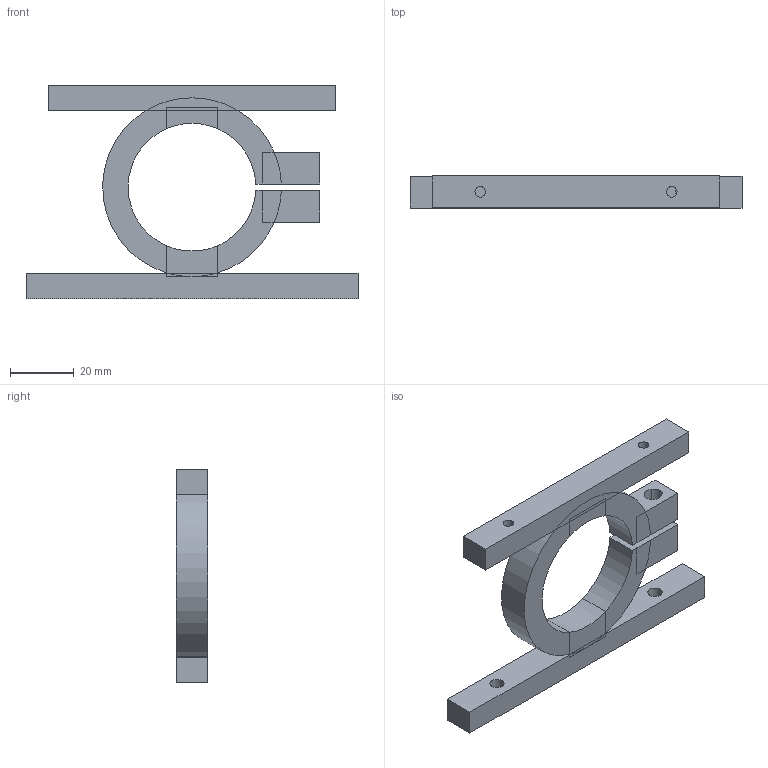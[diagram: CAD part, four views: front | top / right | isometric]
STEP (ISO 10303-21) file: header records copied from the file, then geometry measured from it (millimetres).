
FILE_DESCRIPTION(('Open CASCADE Model'),'2;1');
FILE_NAME('Open CASCADE Shape Model','2026-10-18T22:58:22',('Author'),( 'Open CASCADE'),'Open CASCADE STEP processor 7.9','Open CASCADE 7.9' ,'Unknown');
FILE_SCHEMA(('AUTOMOTIVE_DESIGN { 1 0 10303 214 1 1 1 1 }'));
Length unit declared in the file: millimetre
Products named in the file (1): Open CASCADE STEP translator 7.9 21
Bounding box: 104 x 10 x 67 mm (x, y, z)
Volume: 28243.8 mm3; surface area: 13303.9 mm2
Topology: 1 solids, 1 shells, 75 faces, 182 edges, 109 vertices
Faces by surface type: plane 54, cylinder 21
Full cylindrical faces by diameter (mm): 3.3 x2, 4.5 x2
Entity records: 4554 total; most frequent: CARTESIAN_POINT 913, DIRECTION 672, ORIENTED_EDGE 364, PCURVE 364, DEFINITIONAL_REPRESENTATION 364, LINE 358, VECTOR 358, EDGE_CURVE 182
